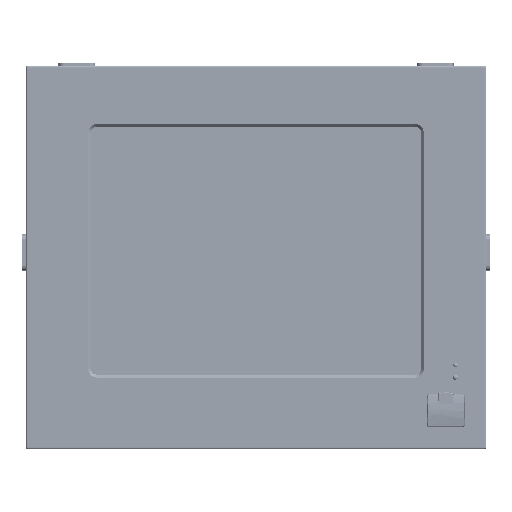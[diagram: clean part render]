
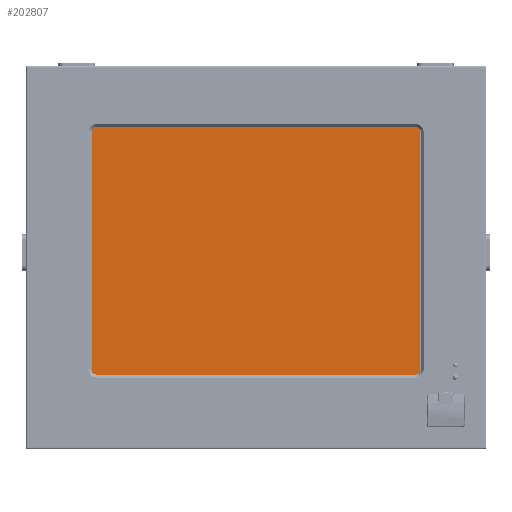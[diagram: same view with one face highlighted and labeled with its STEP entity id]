
A CAD part, top view. The second image highlights one B-rep face of the part: STEP entity #202807.
In plain terms, the highlighted planar face has unit normal (0, 0, 1).
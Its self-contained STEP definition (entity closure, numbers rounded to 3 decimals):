
#80412 = DIRECTION ( 'NONE',  ( 0., -1., 0. ) ) ;
#80414 = VECTOR ( 'NONE', #80412, 1000. ) ;
#80416 = CARTESIAN_POINT ( 'NONE',  ( 34.25, 168.5, 2.1 ) ) ;
#80417 = LINE ( 'NONE', #80416, #80414 ) ;
#80423 = CARTESIAN_POINT ( 'NONE',  ( 34.25, 38.5, 2.1 ) ) ;
#80489 = DIRECTION ( 'NONE',  ( 1., 0., 0. ) ) ;
#80491 = VECTOR ( 'NONE', #80489, 1000. ) ;
#80493 = CARTESIAN_POINT ( 'NONE',  ( 34.25, 38.5, 2.1 ) ) ;
#80495 = LINE ( 'NONE', #80493, #80491 ) ;
#80515 = CARTESIAN_POINT ( 'NONE',  ( 205.75, 38.5, 2.1 ) ) ;
#80640 = LINE ( 'NONE', #80654, #80820 ) ;
#80654 = CARTESIAN_POINT ( 'NONE',  ( 34.25, 168.5, 2.1 ) ) ;
#80814 = CARTESIAN_POINT ( 'NONE',  ( 34.25, 168.5, 2.1 ) ) ;
#80818 = DIRECTION ( 'NONE',  ( -1., 0., 0. ) ) ;
#80820 = VECTOR ( 'NONE', #80818, 1000. ) ;
#81355 = DIRECTION ( 'NONE',  ( 0., 1., 0. ) ) ;
#81357 = VECTOR ( 'NONE', #81355, 1000. ) ;
#81359 = CARTESIAN_POINT ( 'NONE',  ( 205.75, 168.5, 2.1 ) ) ;
#81361 = LINE ( 'NONE', #81359, #81357 ) ;
#81385 = CARTESIAN_POINT ( 'NONE',  ( 205.75, 168.5, 2.1 ) ) ;
#81563 = DIRECTION ( 'NONE',  ( 1., 0., 0. ) ) ;
#81566 = DIRECTION ( 'NONE',  ( 0., 0., 1. ) ) ;
#81575 = CARTESIAN_POINT ( 'NONE',  ( 34.25, 38.5, 2.1 ) ) ;
#81578 = AXIS2_PLACEMENT_3D ( 'NONE', #81575, #81566, #81563 ) ;
#81579 = FACE_OUTER_BOUND ( 'NONE', #202813, .T. ) ;
#81583 = PLANE ( 'NONE',  #81578 ) ;
#202401 = VERTEX_POINT ( 'NONE', #80423 ) ;
#202413 = EDGE_CURVE ( 'NONE', #202601, #202401, #80417, .T. ) ;
#202465 = VERTEX_POINT ( 'NONE', #80515 ) ;
#202478 = EDGE_CURVE ( 'NONE', #202401, #202465, #80495, .T. ) ;
#202596 = EDGE_CURVE ( 'NONE', #202725, #202601, #80640, .T. ) ;
#202601 = VERTEX_POINT ( 'NONE', #80814 ) ;
#202725 = VERTEX_POINT ( 'NONE', #81385 ) ;
#202742 = EDGE_CURVE ( 'NONE', #202465, #202725, #81361, .T. ) ;
#202807 = ADVANCED_FACE ( 'NONE', ( #81579 ), #81583, .T. ) ;
#202813 = EDGE_LOOP ( 'NONE', ( #202824, #202830, #202839, #202847 ) ) ;
#202824 = ORIENTED_EDGE ( 'NONE', *, *, #202413, .T. ) ;
#202830 = ORIENTED_EDGE ( 'NONE', *, *, #202478, .T. ) ;
#202839 = ORIENTED_EDGE ( 'NONE', *, *, #202742, .T. ) ;
#202847 = ORIENTED_EDGE ( 'NONE', *, *, #202596, .T. ) ;
